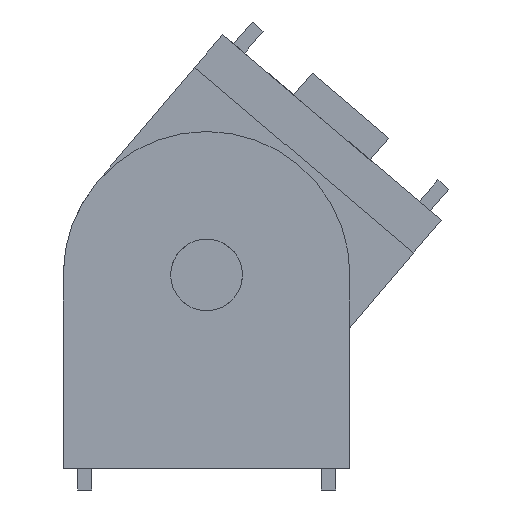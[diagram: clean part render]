
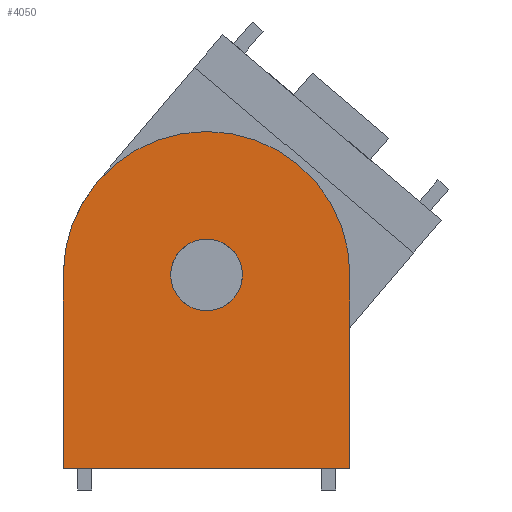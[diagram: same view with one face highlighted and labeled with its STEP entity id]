
A CAD part, left-side view. The second image highlights one B-rep face of the part: STEP entity #4050.
In plain terms, the highlighted planar face has unit normal (-1, 0, 0).
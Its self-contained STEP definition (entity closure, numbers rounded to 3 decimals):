
#36 = ORIENTED_EDGE ( 'NONE', *, *, #3300, .F. ) ;
#130 = ORIENTED_EDGE ( 'NONE', *, *, #4121, .T. ) ;
#280 = CARTESIAN_POINT ( 'NONE',  ( -1.639, -6.5, 13.5 ) ) ;
#311 = ORIENTED_EDGE ( 'NONE', *, *, #465, .T. ) ;
#317 = AXIS2_PLACEMENT_3D ( 'NONE', #1495, #1916, #1900 ) ;
#369 = CIRCLE ( 'NONE', #2855, 2.5 ) ;
#451 = VERTEX_POINT ( 'NONE', #3024 ) ;
#465 = EDGE_CURVE ( 'NONE', #3763, #4745, #369, .T. ) ;
#690 = FACE_BOUND ( 'NONE', #2783, .T. ) ;
#820 = DIRECTION ( 'NONE',  ( 1., 0., 0. ) ) ;
#1033 = ORIENTED_EDGE ( 'NONE', *, *, #1541, .T. ) ;
#1099 = VERTEX_POINT ( 'NONE', #2527 ) ;
#1262 = CIRCLE ( 'NONE', #2546, 2.5 ) ;
#1273 = EDGE_CURVE ( 'NONE', #4758, #1099, #4140, .T. ) ;
#1276 = AXIS2_PLACEMENT_3D ( 'NONE', #280, #2944, #2933 ) ;
#1384 = CARTESIAN_POINT ( 'NONE',  ( -1.639, 3.5, 13.5 ) ) ;
#1495 = CARTESIAN_POINT ( 'NONE',  ( -1.639, 3.5, 23.5 ) ) ;
#1537 = CIRCLE ( 'NONE', #1276, 10. ) ;
#1541 = EDGE_CURVE ( 'NONE', #4745, #3763, #1262, .T. ) ;
#1589 = LINE ( 'NONE', #3853, #2385 ) ;
#1708 = CARTESIAN_POINT ( 'NONE',  ( -1.639, -16.5, 0. ) ) ;
#1750 = LINE ( 'NONE', #4328, #4172 ) ;
#1900 = DIRECTION ( 'NONE',  ( 0., 1., 0. ) ) ;
#1916 = DIRECTION ( 'NONE',  ( 1., 0., 0. ) ) ;
#1931 = PLANE ( 'NONE',  #317 ) ;
#1994 = DIRECTION ( 'NONE',  ( 0., 1., 0. ) ) ;
#2042 = CARTESIAN_POINT ( 'NONE',  ( -1.639, 3.5, 0. ) ) ;
#2365 = LINE ( 'NONE', #2042, #3432 ) ;
#2385 = VECTOR ( 'NONE', #2712, 1000. ) ;
#2477 = VERTEX_POINT ( 'NONE', #1708 ) ;
#2527 = CARTESIAN_POINT ( 'NONE',  ( -1.639, -6.5, 23.5 ) ) ;
#2546 = AXIS2_PLACEMENT_3D ( 'NONE', #3390, #3433, #3415 ) ;
#2556 = ORIENTED_EDGE ( 'NONE', *, *, #3301, .T. ) ;
#2712 = DIRECTION ( 'NONE',  ( 0., 0., -1. ) ) ;
#2772 = CARTESIAN_POINT ( 'NONE',  ( -1.639, -9., 13.5 ) ) ;
#2783 = EDGE_LOOP ( 'NONE', ( #1033, #311 ) ) ;
#2843 = ORIENTED_EDGE ( 'NONE', *, *, #1273, .T. ) ;
#2855 = AXIS2_PLACEMENT_3D ( 'NONE', #4351, #820, #1994 ) ;
#2933 = DIRECTION ( 'NONE',  ( 0., 1., 0. ) ) ;
#2944 = DIRECTION ( 'NONE',  ( -1., 0., 0. ) ) ;
#3024 = CARTESIAN_POINT ( 'NONE',  ( -1.639, 3.5, 0. ) ) ;
#3068 = EDGE_CURVE ( 'NONE', #4685, #451, #1589, .T. ) ;
#3163 = EDGE_LOOP ( 'NONE', ( #2843, #130, #4071, #2556, #36 ) ) ;
#3300 = EDGE_CURVE ( 'NONE', #4758, #2477, #1750, .T. ) ;
#3301 = EDGE_CURVE ( 'NONE', #451, #2477, #2365, .T. ) ;
#3328 = CARTESIAN_POINT ( 'NONE',  ( -1.639, -16.5, 13.5 ) ) ;
#3390 = CARTESIAN_POINT ( 'NONE',  ( -1.639, -6.5, 13.5 ) ) ;
#3415 = DIRECTION ( 'NONE',  ( 0., 1., 0. ) ) ;
#3432 = VECTOR ( 'NONE', #3586, 1000. ) ;
#3433 = DIRECTION ( 'NONE',  ( 1., 0., 0. ) ) ;
#3578 = CARTESIAN_POINT ( 'NONE',  ( -1.639, -6.5, 13.5 ) ) ;
#3586 = DIRECTION ( 'NONE',  ( 0., -1., 0. ) ) ;
#3692 = FACE_OUTER_BOUND ( 'NONE', #3163, .T. ) ;
#3720 = DIRECTION ( 'NONE',  ( 0., 1., 0. ) ) ;
#3761 = DIRECTION ( 'NONE',  ( -1., 0., 0. ) ) ;
#3763 = VERTEX_POINT ( 'NONE', #2772 ) ;
#3853 = CARTESIAN_POINT ( 'NONE',  ( -1.639, 3.5, 23.5 ) ) ;
#4050 = ADVANCED_FACE ( 'NONE', ( #690, #3692 ), #1931, .F. ) ;
#4071 = ORIENTED_EDGE ( 'NONE', *, *, #3068, .T. ) ;
#4082 = CARTESIAN_POINT ( 'NONE',  ( -1.639, -4., 13.5 ) ) ;
#4121 = EDGE_CURVE ( 'NONE', #1099, #4685, #1537, .T. ) ;
#4140 = CIRCLE ( 'NONE', #4512, 10. ) ;
#4172 = VECTOR ( 'NONE', #4621, 1000. ) ;
#4328 = CARTESIAN_POINT ( 'NONE',  ( -1.639, -16.5, 23.5 ) ) ;
#4351 = CARTESIAN_POINT ( 'NONE',  ( -1.639, -6.5, 13.5 ) ) ;
#4512 = AXIS2_PLACEMENT_3D ( 'NONE', #3578, #3761, #3720 ) ;
#4621 = DIRECTION ( 'NONE',  ( 0., 0., -1. ) ) ;
#4685 = VERTEX_POINT ( 'NONE', #1384 ) ;
#4745 = VERTEX_POINT ( 'NONE', #4082 ) ;
#4758 = VERTEX_POINT ( 'NONE', #3328 ) ;
